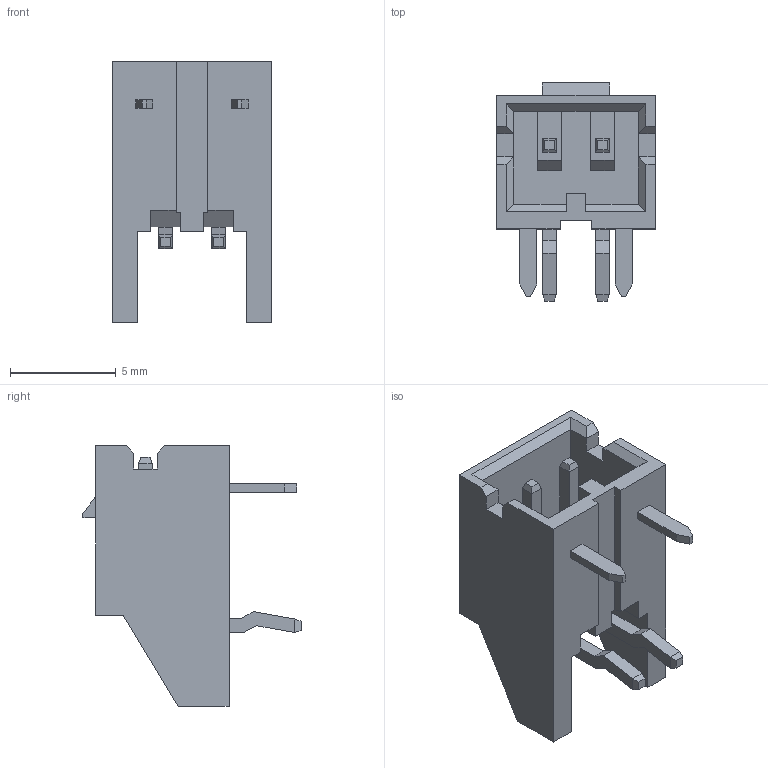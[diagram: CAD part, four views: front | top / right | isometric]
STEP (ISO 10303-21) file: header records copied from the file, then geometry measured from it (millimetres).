
FILE_DESCRIPTION(('CATIA V5 STEP Exchange'),'2;1');
FILE_NAME('Z:\3D文件\小黄（备用文件夹）\条形连接器-小黄\JL\NAWD\HC-JL-2AWD-05（2.50 单排 带定位弯针 打K脚-HCTL）.stp','2025-06-10T09:38:00+00:00',('none'),('none'),'CATIA Version 5 Release 20 GA (IN-10)','CATIA V5 STEP AP203','none');
FILE_SCHEMA(('CONFIG_CONTROL_DESIGN'));
Length unit declared in the file: millimetre
Products named in the file (1): Part2
Bounding box: 7.5 x 10.3 x 12.3 mm (x, y, z)
Volume: 267.4 mm3; surface area: 611.9 mm2
Topology: 1 solids, 1 shells, 134 faces, 351 edges, 226 vertices
Faces by surface type: plane 130, cylinder 4
Entity records: 3821 total; most frequent: ORIENTED_EDGE 702, CARTESIAN_POINT 672, DIRECTION 527, EDGE_CURVE 351, VECTOR 339, LINE 339, VERTEX_POINT 226, EDGE_LOOP 141
